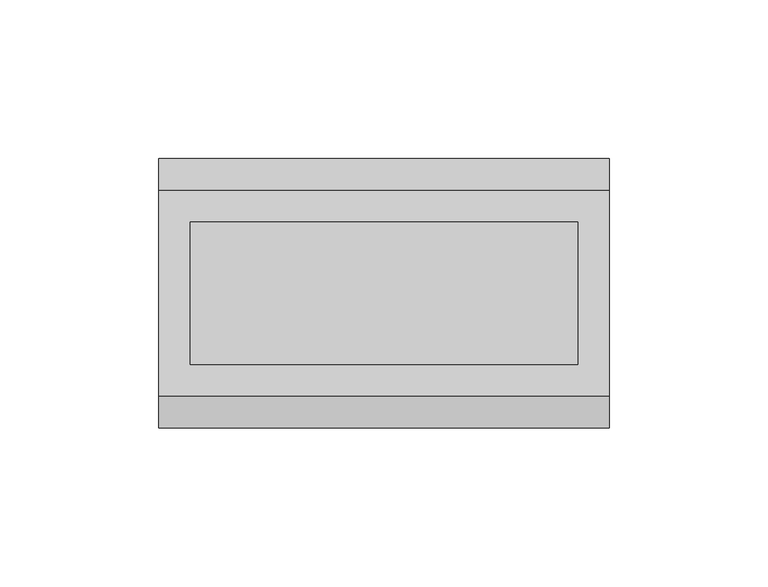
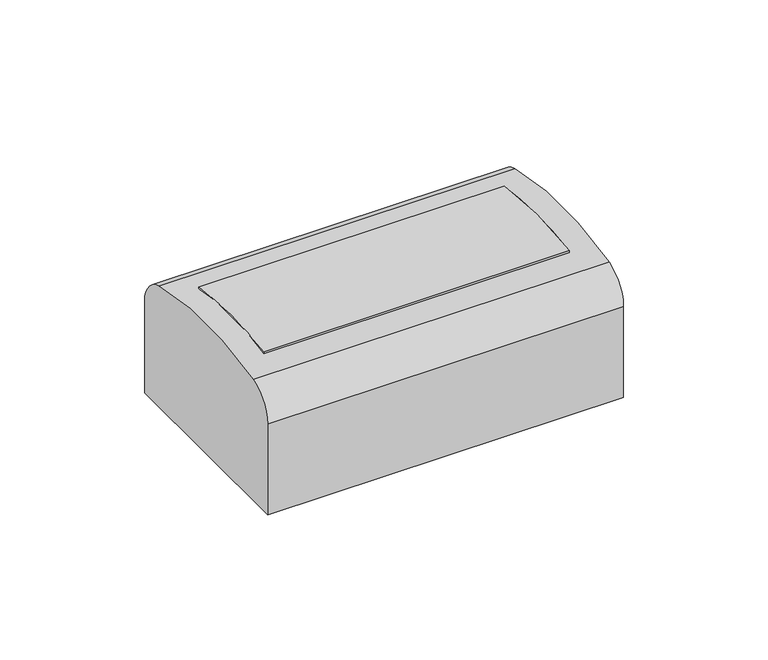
"""IFC4 building model written with IfcOpenShell, lengths in millimetres: cable carrier fitting geometry, КНС_МодульнаяНастеннаяКоробка_DKC : IP55, 4мод.."""

from ifc_helpers import new_model, si_unit, point, frame, frame_2d, origin, place, context, project, spatial, polyline, circle_curve, trimmed, segment, composite_curve, outline, extrude, source, transform, mapped, element, save
from ifc_brep_helpers import plane_surface, cylinder_surface, revolved_surface, advanced_brep


def cable_carrier_fitting_fce8d063(model_context):
    return source(origin(), model_context, "Body", "SolidModel", [
        extrude(outline(composite_curve([segment(trimmed(circle_curve(frame_2d((0.0, -77.1072021)), 132.3364242), [point((-22.5, 53.3024569))], [point((22.5, 53.3024569))], False, "CARTESIAN"), True, "CONTINUOUS"), segment(polyline([(22.5, 53.3024569), (22.5, 52.2875672)]), True, "CONTINUOUS"), segment(trimmed(circle_curve(frame_2d((0.0, -77.1072021)), 131.3364242), [point((22.5, 52.2875672))], [point((-22.5, 52.2875672))], True, "CARTESIAN"), True, "CONTINUOUS"), segment(polyline([(-22.5, 52.2875672), (-22.5, 53.3024569)]), True, "CONTINUOUS")], self_intersect=False)), frame((-61.0, 0.0, 0.0), z_axis=(1.0, 0.0, 0.0), x_axis=(0.0, 1.0, 0.0)), (0.0, 0.0, 1.0), 122.0),
        advanced_brep(
        [(71.0, 42.5, 0.0), (71.0, 42.5, 38.4), (71.0, 32.5785942, 51.1564497), (71.0, -32.5785942, 51.1564497), (71.0, -42.5, 38.4), (71.0, -42.5, 0.0), (-71.0, 42.5, 0.0), (-71.0, -42.5, 0.0), (-71.0, -42.5, 38.4), (-71.0, -32.5785942, 51.1564497), (-71.0, 32.5785942, 51.1564497), (-71.0, 42.5, 38.4), (-61.0, -22.5, 53.3024569), (61.0, -22.5, 53.3024569), (61.0, -22.5, 48.2064495), (-61.0, -22.5, 48.2064495), (61.0, 22.5, 53.3024569), (61.0, 22.5, 48.2064495), (61.0, 0.0, 49.9994992), (-61.0, 22.5, 53.3024569), (-61.0, 22.5, 48.2064495), (-61.0, 0.0, 49.9994992), (66.0, -31.3476937, 46.3103292), (66.0, 0.0, 49.9994992), (66.0, 31.3476937, 46.3103292), (66.0, 37.5, 38.4), (66.0, 37.5, 5.0), (66.0, -37.5, 5.0), (66.0, -37.5, 38.4), (-66.0, -31.3476937, 46.3103292), (-66.0, -37.5, 38.4), (-66.0, -37.5, 5.0), (-66.0, 37.5, 5.0), (-66.0, 37.5, 38.4), (-66.0, 31.3476937, 46.3103292), (-66.0, 0.0, 49.9994992)],
        [
            (0, 1),
            (1, 2, circle_curve(frame((71.0, 29.3384931, 38.4), z_axis=(1.0, 0.0, 0.0), x_axis=(0.0, 1.0, 0.0)), 13.1615069)),
            (2, 3, circle_curve(frame((71.0, 0.0, -77.1072021), z_axis=(1.0, 0.0, 0.0), x_axis=(0.0, 1.0, 0.0)), 132.3364242)),
            (3, 4, circle_curve(frame((71.0, -29.3384931, 38.4), z_axis=(1.0, 0.0, 0.0), x_axis=(0.0, 1.0, 0.0)), 13.1615069)),
            (4, 5),
            (5, 0),
            (6, 7),
            (7, 8),
            (8, 9, circle_curve(frame((-71.0, -29.3384931, 38.4), z_axis=(-1.0, 0.0, 0.0), x_axis=(0.0, 1.0, 0.0)), 13.1615069)),
            (9, 10, circle_curve(frame((-71.0, 0.0, -77.1072021), z_axis=(-1.0, 0.0, 0.0), x_axis=(0.0, 1.0, 0.0)), 132.3364242)),
            (10, 11, circle_curve(frame((-71.0, 29.3384931, 38.4), z_axis=(-1.0, 0.0, 0.0), x_axis=(0.0, 1.0, 0.0)), 13.1615069)),
            (11, 6),
            (0, 6),
            (11, 1),
            (10, 2),
            (3, 9),
            (8, 4),
            (7, 5),
            (12, 13),
            (13, 14),
            (14, 15),
            (15, 12),
            (13, 16, circle_curve(frame((61.0, 0.0, -77.1072021), z_axis=(-1.0, 0.0, 0.0), x_axis=(0.0, 1.0, 0.0)), 132.3364242)),
            (16, 17),
            (17, 18, circle_curve(frame((61.0, 1.7372224, -70.2676652), z_axis=(1.0, 0.0, 0.0), x_axis=(0.0, 1.0, 0.0)), 120.2797106)),
            (18, 14, circle_curve(frame((61.0, -1.7372224, -70.2676652), z_axis=(1.0, 0.0, 0.0), x_axis=(0.0, 1.0, 0.0)), 120.2797106)),
            (16, 19),
            (19, 20),
            (20, 17),
            (19, 12, circle_curve(frame((-61.0, 0.0, -77.1072021), z_axis=(1.0, 0.0, 0.0), x_axis=(0.0, 1.0, 0.0)), 132.3364242)),
            (15, 21, circle_curve(frame((-61.0, -1.7372224, -70.2676652), z_axis=(-1.0, 0.0, 0.0), x_axis=(0.0, 1.0, 0.0)), 120.2797106)),
            (21, 20, circle_curve(frame((-61.0, 1.7372224, -70.2676652), z_axis=(-1.0, 0.0, 0.0), x_axis=(0.0, 1.0, 0.0)), 120.2797106)),
            (22, 23, circle_curve(frame((66.0, -1.7372224, -70.2676652), z_axis=(-1.0, 0.0, 0.0), x_axis=(0.0, 1.0, 0.0)), 120.2797106)),
            (23, 24, circle_curve(frame((66.0, 1.7372224, -70.2676652), z_axis=(-1.0, 0.0, 0.0), x_axis=(0.0, 1.0, 0.0)), 120.2797106)),
            (24, 25, circle_curve(frame((66.0, 29.3384931, 38.4), z_axis=(-1.0, 0.0, 0.0), x_axis=(0.0, 1.0, 0.0)), 8.1615069)),
            (25, 26),
            (26, 27),
            (27, 28),
            (28, 22, circle_curve(frame((66.0, -29.3384931, 38.4), z_axis=(-1.0, 0.0, 0.0), x_axis=(0.0, 1.0, 0.0)), 8.1615069)),
            (29, 30, circle_curve(frame((-66.0, -29.3384931, 38.4), z_axis=(1.0, 0.0, 0.0), x_axis=(0.0, 1.0, 0.0)), 8.1615069)),
            (30, 31),
            (31, 32),
            (32, 33),
            (33, 34, circle_curve(frame((-66.0, 29.3384931, 38.4), z_axis=(1.0, 0.0, 0.0), x_axis=(0.0, 1.0, 0.0)), 8.1615069)),
            (34, 35, circle_curve(frame((-66.0, 1.7372224, -70.2676652), z_axis=(1.0, 0.0, 0.0), x_axis=(0.0, 1.0, 0.0)), 120.2797106)),
            (35, 29, circle_curve(frame((-66.0, -1.7372224, -70.2676652), z_axis=(1.0, 0.0, 0.0), x_axis=(0.0, 1.0, 0.0)), 120.2797106)),
            (28, 30),
            (29, 22),
            (27, 31),
            (26, 32),
            (25, 33),
            (24, 34),
            (23, 18),
            (21, 35),
        ],
        [
            plane_surface(frame((71.0, 42.5, 38.4), z_axis=(1.0, 0.0, 0.0), x_axis=(0.0, 0.0, 1.0))),
            plane_surface(frame((-71.0, 42.5, 38.4), z_axis=(-1.0, 0.0, 0.0), x_axis=(0.0, 0.0, -1.0))),
            plane_surface(frame((71.0, 42.5, 0.0), z_axis=(0.0, 1.0, 0.0), x_axis=(-1.0, 0.0, 0.0))),
            cylinder_surface(frame((-71.0, 29.3384931, 38.4), z_axis=(1.0, 0.0, 0.0), x_axis=(0.0, 1.0, 0.0)), 13.1615069),
            cylinder_surface(frame((-71.0, -29.3384931, 38.4), z_axis=(1.0, 0.0, 0.0), x_axis=(0.0, 1.0, 0.0)), 13.1615069),
            plane_surface(frame((71.0, -42.5, 38.4), z_axis=(0.0, -1.0, 0.0), x_axis=(-1.0, 0.0, 0.0))),
            plane_surface(frame((71.0, -42.5, 0.0), z_axis=(0.0, 0.0, -1.0), x_axis=(-1.0, 0.0, 0.0))),
            plane_surface(frame((-61.0, -22.5, 64.2929878), z_axis=(0.0, 1.0, 0.0), x_axis=(0.0, 0.0, -1.0))),
            plane_surface(frame((61.0, -22.5, 64.2929878), z_axis=(-1.0, 0.0, 0.0), x_axis=(0.0, 0.0, -1.0))),
            plane_surface(frame((61.0, 22.5, 64.2929878), z_axis=(0.0, -1.0, 0.0), x_axis=(0.0, 0.0, -1.0))),
            plane_surface(frame((-61.0, 22.5, 64.2929878), z_axis=(1.0, 0.0, 0.0), x_axis=(0.0, 0.0, -1.0))),
            plane_surface(frame((66.0, -21.1769862, 38.4), z_axis=(-1.0, 0.0, 0.0), x_axis=(0.0, 0.0, 1.0))),
            plane_surface(frame((-66.0, -21.1769862, 38.4), z_axis=(1.0, 0.0, 0.0), x_axis=(0.0, 0.0, -1.0))),
            revolved_surface(polyline([(66.0, -21.1769862, 38.4), (-66.0, -21.1769862, 38.4)]), (-66.0, -29.3384931, 38.4), (1.0, 0.0, 0.0)),
            plane_surface(frame((66.0, -37.5, 38.4), z_axis=(0.0, 1.0, 0.0), x_axis=(-1.0, 0.0, 0.0))),
            plane_surface(frame((66.0, -37.5, 5.0), z_axis=(0.0, 0.0, 1.0), x_axis=(-1.0, 0.0, 0.0))),
            plane_surface(frame((66.0, 37.5, 5.0), z_axis=(0.0, -1.0, 0.0), x_axis=(-1.0, 0.0, 0.0))),
            revolved_surface(polyline([(66.0, 37.5, 38.4), (-66.0, 37.5, 38.4)]), (-66.0, 29.3384931, 38.4), (1.0, 0.0, 0.0)),
            revolved_surface(polyline([(66.0, 122.016933, -70.2676652), (-66.0, 122.016933, -70.2676652)]), (-66.0, 1.7372224, -70.2676652), (1.0, 0.0, 0.0)),
            revolved_surface(polyline([(66.0, 118.54248820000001, -70.2676652), (-66.0, 118.54248820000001, -70.2676652)]), (-66.0, -1.7372224, -70.2676652), (1.0, 0.0, 0.0)),
            cylinder_surface(frame((-71.0, 0.0, -77.1072021), z_axis=(1.0, 0.0, 0.0), x_axis=(0.0, 1.0, 0.0)), 132.3364242),
        ],
        [
            (0, [[1, 2, 3, 4, 5, 6]]),
            (1, [[7, 8, 9, 10, 11, 12]]),
            (2, [[-1, 13, -12, 14]]),
            (3, [[-2, -14, -11, 15]]),
            (4, [[-4, 16, -9, 17]]),
            (5, [[-5, -17, -8, 18]]),
            (6, [[-6, -18, -7, -13]]),
            (7, [[19, 20, 21, 22]]),
            (8, [[23, 24, 25, 26, -20]]),
            (9, [[27, 28, 29, -24]]),
            (10, [[30, -22, 31, 32, -28]]),
            (11, [[33, 34, 35, 36, 37, 38, 39]]),
            (12, [[40, 41, 42, 43, 44, 45, 46]]),
            (13, [[-39, 47, -40, 48]]),
            (14, [[-38, 49, -41, -47]]),
            (15, [[-37, 50, -42, -49]]),
            (16, [[-36, 51, -43, -50]]),
            (17, [[-35, 52, -44, -51]]),
            (18, [[-34, 53, -25, -29, -32, 54, -45, -52]]),
            (19, [[-33, -48, -46, -54, -31, -21, -26, -53]]),
            (20, [[-3, -15, -10, -16], [-19, -30, -27, -23]]),
        ],
    ),
    ])


if __name__ == "__main__":
    model = new_model("IFC4")
    model_context = context("Model", 3, world=origin())
    ifc_project = project(units=[si_unit("LENGTHUNIT", "METRE", prefix="MILLI")], contexts=[model_context])
    site = spatial("IfcSite", under=ifc_project)
    building = spatial("IfcBuilding", under=site)
    placement = place(None, origin())
    cable_carrier_fitting_shape = cable_carrier_fitting_fce8d063(model_context)
    element("IfcCableCarrierFitting", 1, ObjectType="КНС_МодульнаяНастеннаяКоробка_DKC : IP55, 4мод.", at=placement, inside=building, context=model_context, shape_type="MappedRepresentation", body=[
        mapped(cable_carrier_fitting_shape, transform((0.0, 0.0, 0.0), x_axis=(1.0, 0.0, 0.0), y_axis=(0.0, 1.0, 0.0), z_axis=(0.0, 0.0, 1.0))),
    ])
    save(model, "model.ifc")
